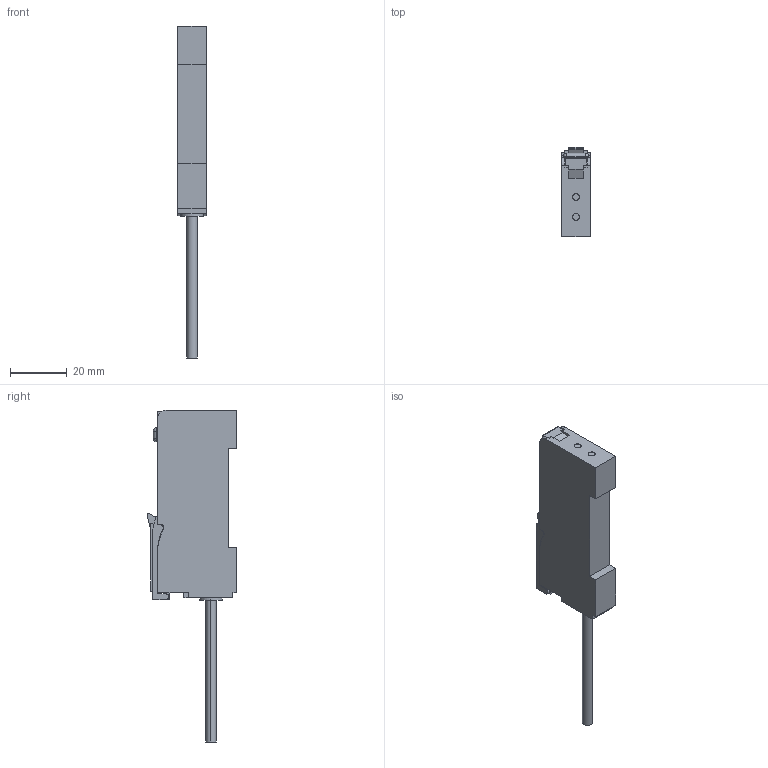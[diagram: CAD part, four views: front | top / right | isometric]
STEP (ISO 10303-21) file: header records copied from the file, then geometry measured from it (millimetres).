
FILE_DESCRIPTION (( 'STEP AP203' ), '1' );
FILE_NAME ('fx-251-c2.STEP', '2025-06-16T07:46:57', ( '' ), ( '' ), 'SwSTEP 2.0', 'SolidWorks 2022', '' );
FILE_SCHEMA (( 'CONFIG_CONTROL_DESIGN' ));
Length unit declared in the file: millimetre
Products named in the file (3): fx-251-c2; fx-251_amp; fx-251_cover
Assembly tree (2 placements, depth 2):
  fx-251-c2
    fx-251_amp
    fx-251_cover
Bounding box: 10 x 31.74 x 117.3 mm (x, y, z)
Volume: 18393.8 mm3; surface area: 7452.2 mm2
Topology: 3 solids, 3 shells, 179 faces, 466 edges, 304 vertices
Faces by surface type: plane 132, cylinder 43, sphere 4
Entity records: 5725 total; most frequent: CARTESIAN_POINT 962, ORIENTED_EDGE 924, DIRECTION 916, EDGE_CURVE 462, LINE 368, VECTOR 368, VERTEX_POINT 304, AXIS2_PLACEMENT_3D 274
